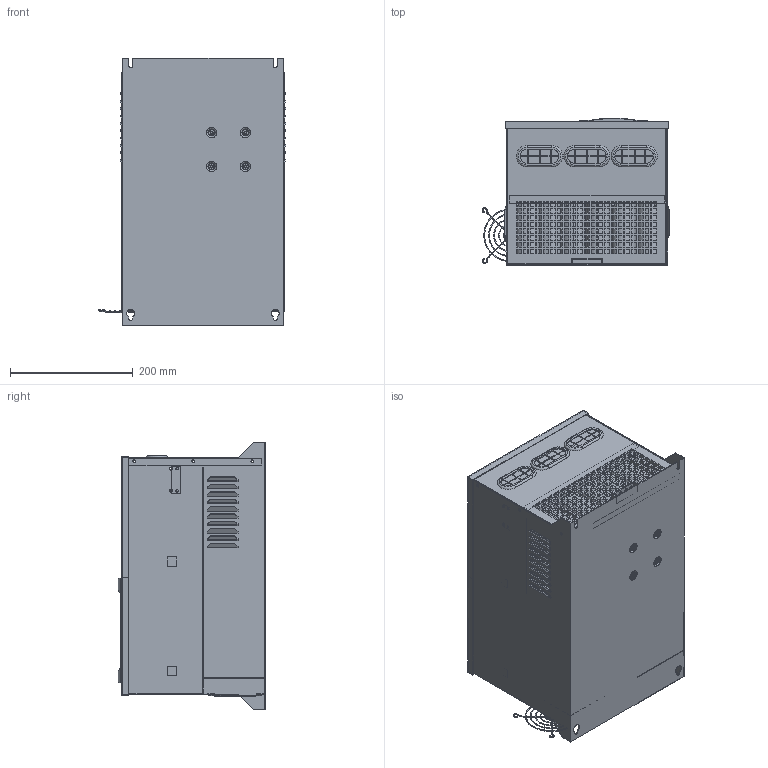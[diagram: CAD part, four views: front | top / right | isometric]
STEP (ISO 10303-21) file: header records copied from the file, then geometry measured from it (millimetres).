
FILE_DESCRIPTION((''),'2;1');
FILE_NAME('C3_ASM','2015-09-07T',('Administrator'),(''),'PRO/ENGINEER BY PARAMETRIC TECHNOLOGY CORPORATION, 2012230','PRO/ENGINEER BY PARAMETRIC TECHNOLOGY CORPORATION, 2012230','');
FILE_SCHEMA(('CONFIG_CONTROL_DESIGN'));
Products named in the file (37): KE; SANREQI; MO_KUAI_FS100R12; MDS160QIAO_1; GD75CUL120C1S; TZ-17; PCB-00; DIANKANGQI; DUANZIZHIJIA_1; TR80-01_1; U-TP02; V-TP; W-TP1; HUOERFENGZHUANG_1; C3Y00_0303; C03Y00_0302; BIAOQIAN; C3Y00_0304; BRACKET_ASM; C3Y00_0305; PCBZHIZHU; D2C3KQ08; CHUANXIANQUAN30; DIANRONGBAN3; N-NZ; F-TP; B-TP; P-N-TP; ZD-PD; KONGZHIBAN21; PG-PCB1; STO-PCB1; ZONGXIAN-PCB1; 9225FENGJI_1; 9225ZHAO; HXQ; C3_ASM
Assembly tree (62 placements, depth 2):
  C3_ASM
    KE
    SANREQI
    MO_KUAI_FS100R12
    MDS160QIAO_1
    GD75CUL120C1S
    TZ-17  x18
    PCB-00
    DIANKANGQI
    DUANZIZHIJIA_1
    TR80-01_1
    U-TP02
    V-TP
    W-TP1
    HUOERFENGZHUANG_1  x3
    C3Y00_0303
    C03Y00_0302
    BIAOQIAN
    C3Y00_0304
    BRACKET_ASM
    C3Y00_0305
    PCBZHIZHU  x4
    D2C3KQ08
    CHUANXIANQUAN30
    DIANRONGBAN3
    N-NZ
    F-TP
    B-TP
    P-N-TP
    ZD-PD
    KONGZHIBAN21
    PG-PCB1
    STO-PCB1
    ZONGXIAN-PCB1
    9225FENGJI_1  x2
    9225ZHAO  x2
    HXQ  x3
Bounding box: 305.6 x 239.68 x 435 mm (x, y, z)
Volume: 4652808.2 mm3; surface area: 3304963.1 mm2
Topology: 78 solids, 78 shells, 4848 faces, 13021 edges, 8471 vertices
Faces by surface type: plane 3143, cylinder 1302, torus 192, cone 121, bspline 66, sphere 24
Entity records: 135692 total; most frequent: CARTESIAN_POINT 27607, ORIENTED_EDGE 22382, DIRECTION 21840, EDGE_CURVE 11191, VECTOR 8284, LINE 8284, VERTEX_POINT 7342, AXIS2_PLACEMENT_3D 6778
